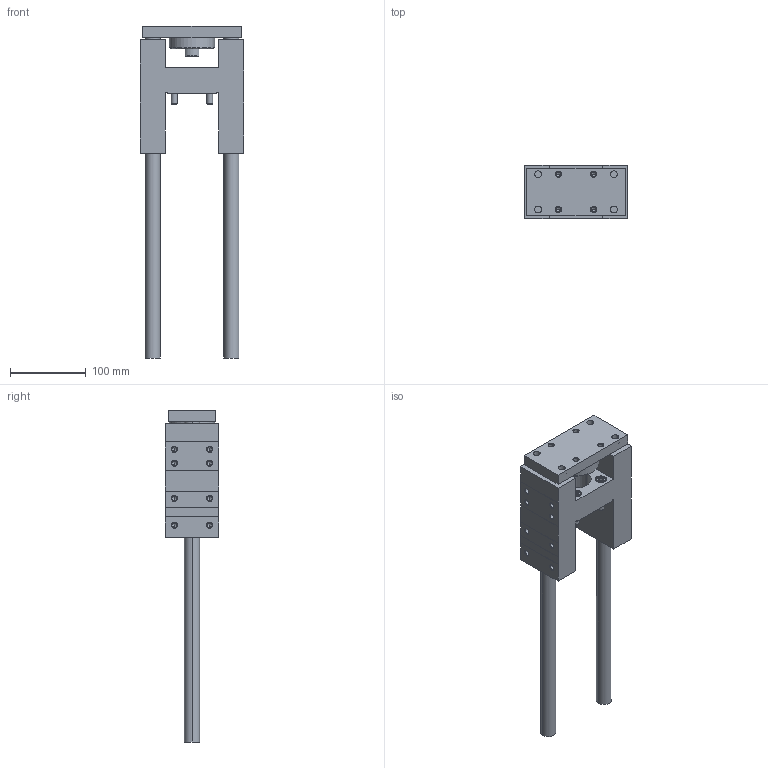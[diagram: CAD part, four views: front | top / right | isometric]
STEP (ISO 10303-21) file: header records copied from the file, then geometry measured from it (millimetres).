
FILE_DESCRIPTION (( 'STEP AP203' ), '1' );
FILE_NAME ('GB50-250.STEP', '2020-04-24T13:15:31', ( '' ), ( '' ), 'SwSTEP 2.0', 'SolidWorks 2019', '' );
FILE_SCHEMA (( 'CONFIG_CONTROL_DESIGN' ));
Length unit declared in the file: millimetre
Products named in the file (1): GB50-250
Bounding box: 137 x 70 x 438 mm (x, y, z)
Volume: 1134038.9 mm3; surface area: 199900.4 mm2
Topology: 6 solids, 6 shells, 377 faces, 852 edges, 480 vertices
Faces by surface type: cone 154, plane 117, cylinder 106
Entity records: 10863 total; most frequent: CARTESIAN_POINT 2350, DIRECTION 1902, ORIENTED_EDGE 1624, EDGE_CURVE 812, AXIS2_PLACEMENT_3D 744, VERTEX_POINT 480, EDGE_LOOP 440, VECTOR 414
